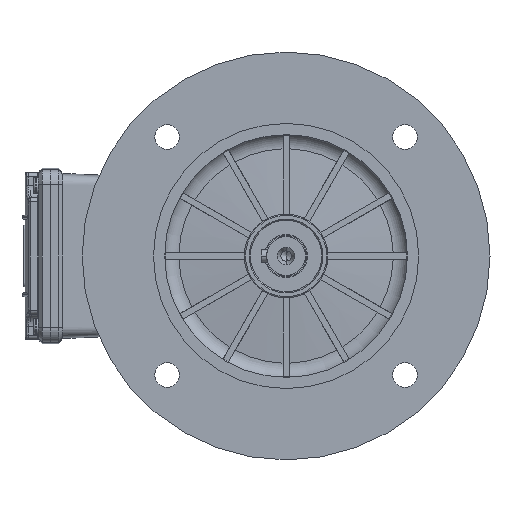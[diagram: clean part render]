
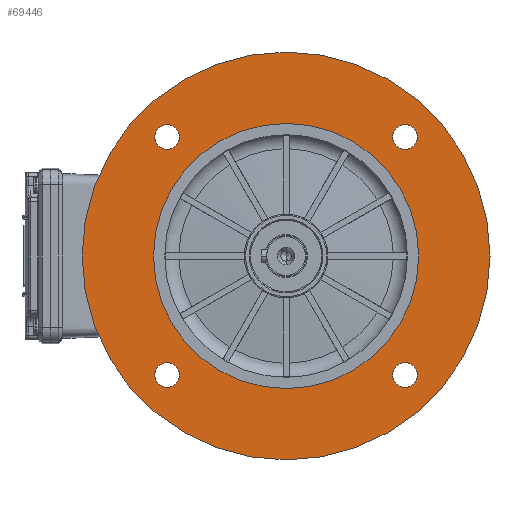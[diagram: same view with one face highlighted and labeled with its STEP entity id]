
A CAD part, left-side view. The second image highlights one B-rep face of the part: STEP entity #69446.
In plain terms, the highlighted planar face has unit normal (-1, 0, 0) as drawn and (0, -1, 0) by its records, which use the part's own axes.
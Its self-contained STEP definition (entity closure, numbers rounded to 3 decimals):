
#35 = AXIS2_PLACEMENT_3D ( 'NONE', #52981, #8166, #60542 ) ;
#2079 = FACE_BOUND ( 'NONE', #62263, .T. ) ;
#2372 = EDGE_CURVE ( 'NONE', #17354, #70079, #25296, .T. ) ;
#8166 = DIRECTION ( 'NONE',  ( 0., -1., 0. ) ) ;
#8854 = DIRECTION ( 'NONE',  ( 0., 1., 0. ) ) ;
#9847 = DIRECTION ( 'NONE',  ( 0., 0., 1. ) ) ;
#10354 = EDGE_CURVE ( 'NONE', #31750, #51357, #94773, .T. ) ;
#11321 = EDGE_LOOP ( 'NONE', ( #18363, #94649 ) ) ;
#12229 = AXIS2_PLACEMENT_3D ( 'NONE', #28253, #80669, #35763 ) ;
#12607 = CARTESIAN_POINT ( 'NONE',  ( 58.336, 3.5, 52.336 ) ) ;
#13292 = CARTESIAN_POINT ( 'NONE',  ( 58.336, 3.5, 58.336 ) ) ;
#14112 = VERTEX_POINT ( 'NONE', #61064 ) ;
#14799 = VERTEX_POINT ( 'NONE', #40224 ) ;
#15049 = DIRECTION ( 'NONE',  ( 0., -1., 0. ) ) ;
#15891 = EDGE_CURVE ( 'NONE', #64411, #62226, #74897, .T. ) ;
#16748 = CIRCLE ( 'NONE', #48210, 6. ) ;
#17046 = CIRCLE ( 'NONE', #72412, 6. ) ;
#17316 = DIRECTION ( 'NONE',  ( 0., 1., 0. ) ) ;
#17354 = VERTEX_POINT ( 'NONE', #35778 ) ;
#17840 = VERTEX_POINT ( 'NONE', #94203 ) ;
#18049 = AXIS2_PLACEMENT_3D ( 'NONE', #68734, #23896, #76293 ) ;
#18363 = ORIENTED_EDGE ( 'NONE', *, *, #15891, .T. ) ;
#18833 = EDGE_CURVE ( 'NONE', #14799, #52990, #80459, .T. ) ;
#20815 = DIRECTION ( 'NONE',  ( 0., 0., 1. ) ) ;
#21403 = ORIENTED_EDGE ( 'NONE', *, *, #32672, .T. ) ;
#21849 = AXIS2_PLACEMENT_3D ( 'NONE', #62182, #17316, #69740 ) ;
#22011 = FACE_BOUND ( 'NONE', #31260, .T. ) ;
#23199 = CIRCLE ( 'NONE', #18049, 100. ) ;
#23896 = DIRECTION ( 'NONE',  ( 0., -1., 0. ) ) ;
#25068 = AXIS2_PLACEMENT_3D ( 'NONE', #13292, #65700, #20815 ) ;
#25296 = CIRCLE ( 'NONE', #35, 65. ) ;
#27418 = DIRECTION ( 'NONE',  ( 0., 1., 0. ) ) ;
#28123 = CARTESIAN_POINT ( 'NONE',  ( 58.336, 3.5, -52.336 ) ) ;
#28253 = CARTESIAN_POINT ( 'NONE',  ( 58.336, 3.5, 58.336 ) ) ;
#29514 = AXIS2_PLACEMENT_3D ( 'NONE', #47101, #54648, #9847 ) ;
#30451 = CIRCLE ( 'NONE', #53553, 6. ) ;
#31260 = EDGE_LOOP ( 'NONE', ( #46240, #32078 ) ) ;
#31750 = VERTEX_POINT ( 'NONE', #90949 ) ;
#32078 = ORIENTED_EDGE ( 'NONE', *, *, #63231, .T. ) ;
#32672 = EDGE_CURVE ( 'NONE', #14112, #17840, #23199, .T. ) ;
#33343 = EDGE_CURVE ( 'NONE', #17840, #14112, #42932, .T. ) ;
#35763 = DIRECTION ( 'NONE',  ( 0., 0., 1. ) ) ;
#35778 = CARTESIAN_POINT ( 'NONE',  ( 0., 3.5, -65. ) ) ;
#36955 = CIRCLE ( 'NONE', #72459, 65. ) ;
#37045 = ORIENTED_EDGE ( 'NONE', *, *, #54798, .T. ) ;
#38501 = EDGE_LOOP ( 'NONE', ( #55022, #21403 ) ) ;
#38770 = CARTESIAN_POINT ( 'NONE',  ( -58.336, 3.5, 58.336 ) ) ;
#39003 = CARTESIAN_POINT ( 'NONE',  ( 58.336, 3.5, -64.336 ) ) ;
#39241 = EDGE_CURVE ( 'NONE', #76801, #74368, #30451, .T. ) ;
#39805 = CARTESIAN_POINT ( 'NONE',  ( 0., 3.5, 0. ) ) ;
#40224 = CARTESIAN_POINT ( 'NONE',  ( -58.336, 3.5, -52.336 ) ) ;
#40826 = CARTESIAN_POINT ( 'NONE',  ( -58.336, 3.5, -58.336 ) ) ;
#41511 = EDGE_LOOP ( 'NONE', ( #56833, #51181 ) ) ;
#42932 = CIRCLE ( 'NONE', #84611, 100. ) ;
#43760 = DIRECTION ( 'NONE',  ( 0., 1., 0. ) ) ;
#44319 = CARTESIAN_POINT ( 'NONE',  ( -58.336, 3.5, 52.336 ) ) ;
#44759 = EDGE_CURVE ( 'NONE', #52990, #14799, #16748, .T. ) ;
#46240 = ORIENTED_EDGE ( 'NONE', *, *, #10354, .T. ) ;
#46282 = DIRECTION ( 'NONE',  ( 0., 0., 1. ) ) ;
#47101 = CARTESIAN_POINT ( 'NONE',  ( 0., 3.5, 65. ) ) ;
#47322 = DIRECTION ( 'NONE',  ( 0., 0., -1. ) ) ;
#48167 = EDGE_CURVE ( 'NONE', #70079, #17354, #36955, .T. ) ;
#48210 = AXIS2_PLACEMENT_3D ( 'NONE', #40826, #93332, #48372 ) ;
#48372 = DIRECTION ( 'NONE',  ( 0., 0., 1. ) ) ;
#49013 = ORIENTED_EDGE ( 'NONE', *, *, #18833, .T. ) ;
#51181 = ORIENTED_EDGE ( 'NONE', *, *, #48167, .F. ) ;
#51357 = VERTEX_POINT ( 'NONE', #44319 ) ;
#52981 = CARTESIAN_POINT ( 'NONE',  ( 0., 3.5, 0. ) ) ;
#52990 = VERTEX_POINT ( 'NONE', #66321 ) ;
#53553 = AXIS2_PLACEMENT_3D ( 'NONE', #53649, #8854, #61227 ) ;
#53649 = CARTESIAN_POINT ( 'NONE',  ( 58.336, 3.5, -58.336 ) ) ;
#54648 = DIRECTION ( 'NONE',  ( 0., 1., 0. ) ) ;
#54798 = EDGE_CURVE ( 'NONE', #74368, #76801, #66521, .T. ) ;
#55022 = ORIENTED_EDGE ( 'NONE', *, *, #33343, .T. ) ;
#56833 = ORIENTED_EDGE ( 'NONE', *, *, #2372, .F. ) ;
#57706 = EDGE_LOOP ( 'NONE', ( #49013, #71591 ) ) ;
#59457 = FACE_OUTER_BOUND ( 'NONE', #38501, .T. ) ;
#59915 = CARTESIAN_POINT ( 'NONE',  ( 0., 3.5, 0. ) ) ;
#60542 = DIRECTION ( 'NONE',  ( 0., 0., -1. ) ) ;
#61064 = CARTESIAN_POINT ( 'NONE',  ( 0., 3.5, 100. ) ) ;
#61227 = DIRECTION ( 'NONE',  ( 0., 0., 1. ) ) ;
#61802 = FACE_BOUND ( 'NONE', #57706, .T. ) ;
#62182 = CARTESIAN_POINT ( 'NONE',  ( -58.336, 3.5, -58.336 ) ) ;
#62226 = VERTEX_POINT ( 'NONE', #12607 ) ;
#62263 = EDGE_LOOP ( 'NONE', ( #86245, #37045 ) ) ;
#63231 = EDGE_CURVE ( 'NONE', #51357, #31750, #17046, .T. ) ;
#64190 = FACE_BOUND ( 'NONE', #11321, .T. ) ;
#64411 = VERTEX_POINT ( 'NONE', #88788 ) ;
#65532 = CIRCLE ( 'NONE', #25068, 6. ) ;
#65700 = DIRECTION ( 'NONE',  ( 0., 1., 0. ) ) ;
#66321 = CARTESIAN_POINT ( 'NONE',  ( -58.336, 3.5, -64.336 ) ) ;
#66521 = CIRCLE ( 'NONE', #84736, 6. ) ;
#67469 = DIRECTION ( 'NONE',  ( 0., 0., -1. ) ) ;
#68637 = EDGE_CURVE ( 'NONE', #62226, #64411, #65532, .T. ) ;
#68734 = CARTESIAN_POINT ( 'NONE',  ( 0., 3.5, 0. ) ) ;
#69446 = ADVANCED_FACE ( 'NONE', ( #2079, #64190, #61802, #22011, #79415, #59457 ), #92048, .F. ) ;
#69740 = DIRECTION ( 'NONE',  ( 0., 0., 1. ) ) ;
#70079 = VERTEX_POINT ( 'NONE', #78167 ) ;
#71591 = ORIENTED_EDGE ( 'NONE', *, *, #44759, .T. ) ;
#72306 = CARTESIAN_POINT ( 'NONE',  ( -58.336, 3.5, 58.336 ) ) ;
#72412 = AXIS2_PLACEMENT_3D ( 'NONE', #72306, #27418, #79820 ) ;
#72459 = AXIS2_PLACEMENT_3D ( 'NONE', #39805, #92289, #47322 ) ;
#74368 = VERTEX_POINT ( 'NONE', #39003 ) ;
#74897 = CIRCLE ( 'NONE', #12229, 6. ) ;
#75177 = AXIS2_PLACEMENT_3D ( 'NONE', #38770, #91240, #46282 ) ;
#76293 = DIRECTION ( 'NONE',  ( 0., 0., -1. ) ) ;
#76801 = VERTEX_POINT ( 'NONE', #28123 ) ;
#78167 = CARTESIAN_POINT ( 'NONE',  ( 0., 3.5, 65. ) ) ;
#79415 = FACE_BOUND ( 'NONE', #41511, .T. ) ;
#79820 = DIRECTION ( 'NONE',  ( 0., 0., 1. ) ) ;
#80459 = CIRCLE ( 'NONE', #21849, 6. ) ;
#80669 = DIRECTION ( 'NONE',  ( 0., 1., 0. ) ) ;
#84611 = AXIS2_PLACEMENT_3D ( 'NONE', #59915, #15049, #67469 ) ;
#84736 = AXIS2_PLACEMENT_3D ( 'NONE', #88714, #43760, #96223 ) ;
#86245 = ORIENTED_EDGE ( 'NONE', *, *, #39241, .T. ) ;
#88714 = CARTESIAN_POINT ( 'NONE',  ( 58.336, 3.5, -58.336 ) ) ;
#88788 = CARTESIAN_POINT ( 'NONE',  ( 58.336, 3.5, 64.336 ) ) ;
#90949 = CARTESIAN_POINT ( 'NONE',  ( -58.336, 3.5, 64.336 ) ) ;
#91240 = DIRECTION ( 'NONE',  ( 0., 1., 0. ) ) ;
#92048 = PLANE ( 'NONE',  #29514 ) ;
#92289 = DIRECTION ( 'NONE',  ( 0., -1., 0. ) ) ;
#93332 = DIRECTION ( 'NONE',  ( 0., 1., 0. ) ) ;
#94203 = CARTESIAN_POINT ( 'NONE',  ( 0., 3.5, -100. ) ) ;
#94649 = ORIENTED_EDGE ( 'NONE', *, *, #68637, .T. ) ;
#94773 = CIRCLE ( 'NONE', #75177, 6. ) ;
#96223 = DIRECTION ( 'NONE',  ( 0., 0., 1. ) ) ;
